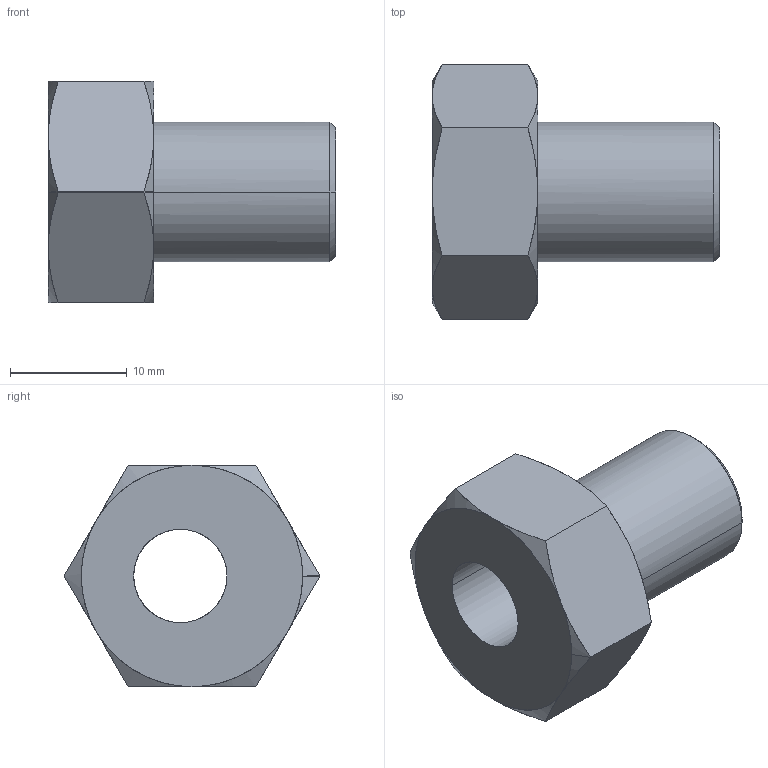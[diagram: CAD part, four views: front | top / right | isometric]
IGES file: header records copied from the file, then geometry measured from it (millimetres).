
Global section: file name: No Iges File Name specified; native system: AutoDesk Inventor R11.0; preprocessor: AutoDesk Inventor Iges Exporter R11.0; author: No Author specified; organization: No Organization specified; date: 20150221.141520; units: millimetre
Bounding box: 24.68 x 21.94 x 19 mm (x, y, z)
Surface area: 2289.5 mm2 (no closed solid volume)
Topology: 0 solids, 0 shells, 29 faces, 142 edges, 142 vertices
Faces by surface type: bspline 29
